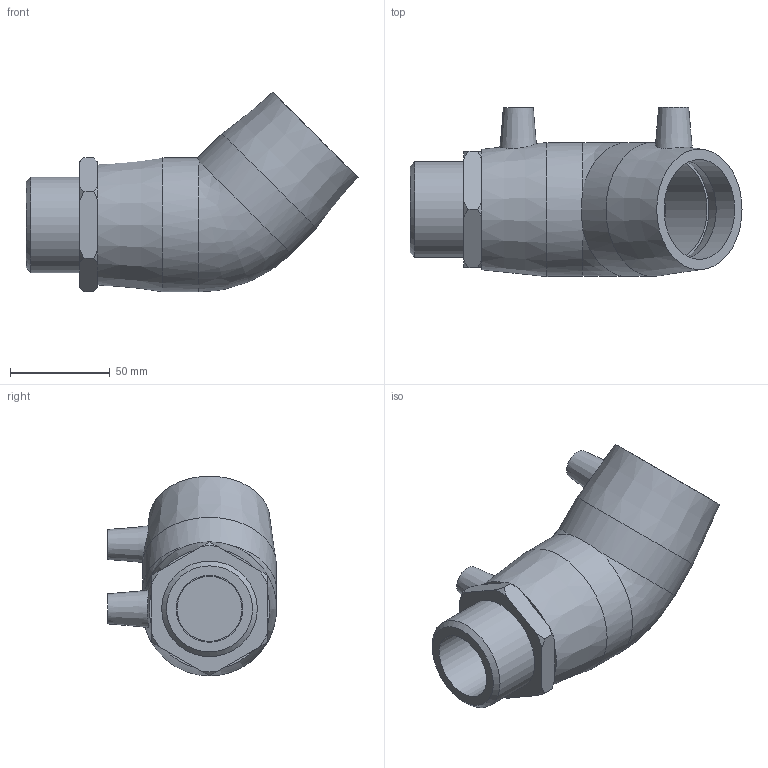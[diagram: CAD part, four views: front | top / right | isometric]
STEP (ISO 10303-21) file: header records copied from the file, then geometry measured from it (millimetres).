
FILE_DESCRIPTION(/* description */ ('PLASSON 45° ELBOW TRANSITION MALE 50-1.1/2"'),/* implementation_level */ '2;1');
FILE_NAME(/* name */ 'C:\Dropbox\KIMPROJECTS-Inventor\99-16-3568-Processing\ElectroFusion Fittings\02.02.20\492604\492604050015.ipt.stp',/* time_stamp */ '2020-02-02T12:20:04+02:00',/* author */ ('KIM'),/* organization */ (''),/* preprocessor_version */ 'ST-DEVELOPER v15.6',/* originating_system */ 'Autodesk Inventor 2015',/* authorisation */ '');
FILE_SCHEMA (('AUTOMOTIVE_DESIGN { 1 0 10303 214 3 1 1 }'));
Length unit declared in the file: millimetre
Products named in the file (1): 492604050015
Bounding box: 166 x 84.5 x 99.84 mm (x, y, z)
Volume: 315505.8 mm3; surface area: 62940.8 mm2
Topology: 1 solids, 2 shells, 59 faces, 133 edges, 88 vertices
Faces by surface type: plane 24, cone 19, cylinder 15, bspline 1
Full cylindrical faces by diameter (mm): 4 x2, 10 x2, 32.5 x2, 33.462 x1, 38 x1, 47.803 x1, 50 x4, 67 x2
Entity records: 1500 total; most frequent: CARTESIAN_POINT 369, DIRECTION 236, ORIENTED_EDGE 188, AXIS2_PLACEMENT_3D 109, EDGE_LOOP 97, EDGE_CURVE 94, VERTEX_POINT 75, FACE_OUTER_BOUND 59
